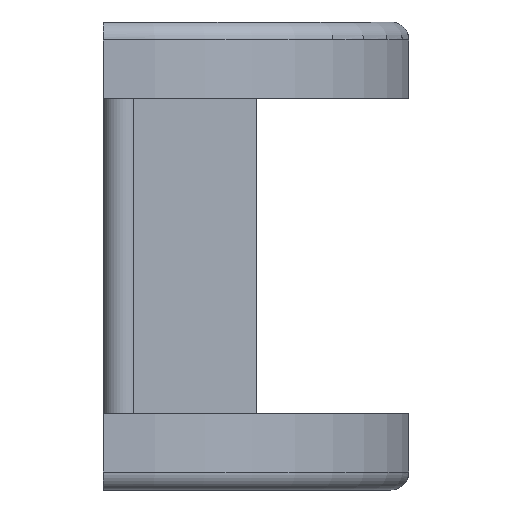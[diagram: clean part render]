
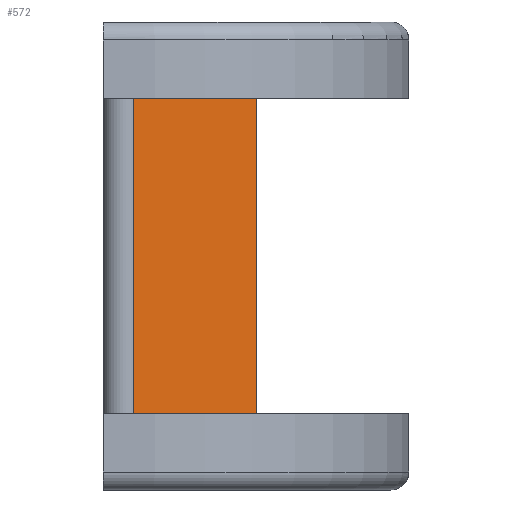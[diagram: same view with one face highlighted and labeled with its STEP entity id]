
A CAD part, front view. The second image highlights one B-rep face of the part: STEP entity #572.
In plain terms, the highlighted planar face has unit normal (0.691, -0.723, 0).
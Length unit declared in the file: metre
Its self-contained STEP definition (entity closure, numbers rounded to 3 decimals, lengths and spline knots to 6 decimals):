
#55=LINE('',#914,#105);
#66=LINE('',#943,#116);
#67=LINE('',#946,#117);
#68=LINE('',#947,#118);
#105=VECTOR('',#727,1.);
#116=VECTOR('',#754,1.);
#117=VECTOR('',#755,1.);
#118=VECTOR('',#756,1.);
#196=ORIENTED_EDGE('',*,*,#339,.F.);
#197=ORIENTED_EDGE('',*,*,#340,.T.);
#198=ORIENTED_EDGE('',*,*,#324,.T.);
#199=ORIENTED_EDGE('',*,*,#341,.F.);
#324=EDGE_CURVE('',#399,#398,#55,.T.);
#339=EDGE_CURVE('',#409,#410,#66,.T.);
#340=EDGE_CURVE('',#409,#399,#67,.T.);
#341=EDGE_CURVE('',#410,#398,#68,.T.);
#398=VERTEX_POINT('',#913);
#399=VERTEX_POINT('',#915);
#409=VERTEX_POINT('',#944);
#410=VERTEX_POINT('',#945);
#467=EDGE_LOOP('',(#196,#197,#198,#199));
#513=FACE_BOUND('',#467,.T.);
#554=PLANE('',#631);
#572=ADVANCED_FACE('',(#513),#554,.F.);
#631=AXIS2_PLACEMENT_3D('',#942,#752,#753);
#727=DIRECTION('',(0.723,0.691,0.));
#752=DIRECTION('',(-0.691,0.723,0.));
#753=DIRECTION('',(-0.723,-0.691,0.));
#754=DIRECTION('',(0.723,0.691,0.));
#755=DIRECTION('',(0.,0.,-1.));
#756=DIRECTION('',(0.,0.,-1.));
#913=CARTESIAN_POINT('',(0.,-0.051594,0.));
#914=CARTESIAN_POINT('',(-0.005398,-0.056753,0.));
#915=CARTESIAN_POINT('',(-0.008647,-0.05986,0.));
#942=CARTESIAN_POINT('',(-0.005398,-0.056753,0.022228));
#943=CARTESIAN_POINT('',(-0.005398,-0.056753,0.022228));
#944=CARTESIAN_POINT('',(-0.008647,-0.05986,0.022228));
#945=CARTESIAN_POINT('',(0.,-0.051594,0.022228));
#946=CARTESIAN_POINT('',(-0.008647,-0.05986,0.022228));
#947=CARTESIAN_POINT('',(0.,-0.051594,0.022228));
